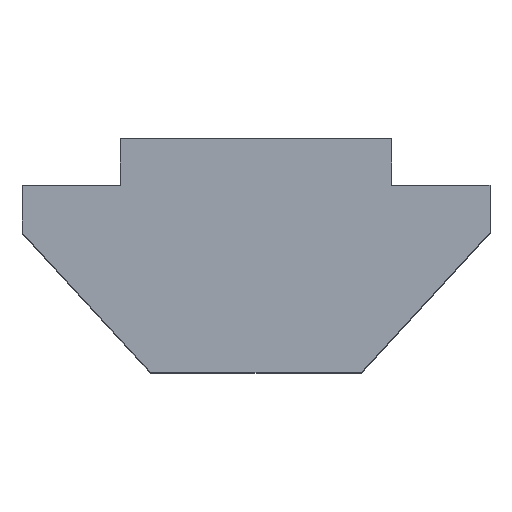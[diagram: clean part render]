
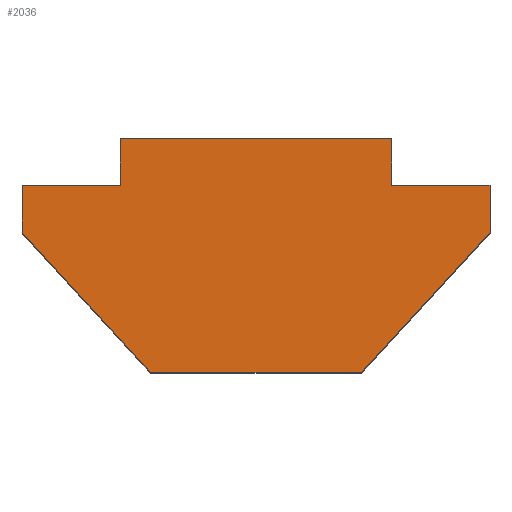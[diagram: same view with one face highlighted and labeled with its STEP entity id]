
A CAD part, top view. The second image highlights one B-rep face of the part: STEP entity #2036.
In plain terms, the highlighted planar face has unit normal (0, 0, 1).
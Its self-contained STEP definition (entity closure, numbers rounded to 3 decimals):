
#39 = EDGE_CURVE ( 'NONE', #1123, #1499, #693, .T. ) ;
#79 = CARTESIAN_POINT ( 'NONE',  ( -5., 3., 5. ) ) ;
#95 = CARTESIAN_POINT ( 'NONE',  ( 2.9, 5., 5. ) ) ;
#100 = CARTESIAN_POINT ( 'NONE',  ( 5., 3., 5. ) ) ;
#122 = CARTESIAN_POINT ( 'NONE',  ( -5., 4., 5. ) ) ;
#146 = VECTOR ( 'NONE', #2346, 1000. ) ;
#169 = CARTESIAN_POINT ( 'NONE',  ( -2.9, 5., 5. ) ) ;
#179 = LINE ( 'NONE', #613, #1245 ) ;
#181 = ORIENTED_EDGE ( 'NONE', *, *, #1535, .T. ) ;
#200 = VECTOR ( 'NONE', #2204, 1000. ) ;
#229 = ORIENTED_EDGE ( 'NONE', *, *, #1351, .T. ) ;
#288 = ORIENTED_EDGE ( 'NONE', *, *, #1677, .T. ) ;
#332 = CARTESIAN_POINT ( 'NONE',  ( 2.9, 5., 5. ) ) ;
#345 = CARTESIAN_POINT ( 'NONE',  ( 2.25, 0., 5. ) ) ;
#346 = DIRECTION ( 'NONE',  ( 0., -1., 0. ) ) ;
#355 = DIRECTION ( 'NONE',  ( 0., 1., 0. ) ) ;
#378 = VECTOR ( 'NONE', #993, 1000. ) ;
#383 = CARTESIAN_POINT ( 'NONE',  ( -2.9, 4., 5. ) ) ;
#405 = ORIENTED_EDGE ( 'NONE', *, *, #1840, .T. ) ;
#423 = VERTEX_POINT ( 'NONE', #100 ) ;
#492 = VERTEX_POINT ( 'NONE', #383 ) ;
#534 = DIRECTION ( 'NONE',  ( -1., 0., 0. ) ) ;
#601 = LINE ( 'NONE', #1630, #1080 ) ;
#610 = EDGE_LOOP ( 'NONE', ( #288, #405, #1321, #229, #181, #2659, #767, #1865, #1920, #1117 ) ) ;
#613 = CARTESIAN_POINT ( 'NONE',  ( -2.9, 4., 5. ) ) ;
#681 = CARTESIAN_POINT ( 'NONE',  ( 5., 3., 5. ) ) ;
#690 = VERTEX_POINT ( 'NONE', #1740 ) ;
#693 = LINE ( 'NONE', #169, #146 ) ;
#750 = AXIS2_PLACEMENT_3D ( 'NONE', #2712, #1197, #977 ) ;
#767 = ORIENTED_EDGE ( 'NONE', *, *, #2676, .T. ) ;
#863 = CARTESIAN_POINT ( 'NONE',  ( 5., 4., 5. ) ) ;
#928 = LINE ( 'NONE', #332, #2023 ) ;
#961 = DIRECTION ( 'NONE',  ( 0.676, -0.737, 0. ) ) ;
#977 = DIRECTION ( 'NONE',  ( -1., 0., 0. ) ) ;
#993 = DIRECTION ( 'NONE',  ( 1., 0., 0. ) ) ;
#1050 = VERTEX_POINT ( 'NONE', #2685 ) ;
#1078 = LINE ( 'NONE', #2269, #1600 ) ;
#1080 = VECTOR ( 'NONE', #346, 1000. ) ;
#1089 = VERTEX_POINT ( 'NONE', #2479 ) ;
#1117 = ORIENTED_EDGE ( 'NONE', *, *, #39, .T. ) ;
#1123 = VERTEX_POINT ( 'NONE', #95 ) ;
#1163 = LINE ( 'NONE', #79, #2181 ) ;
#1197 = DIRECTION ( 'NONE',  ( 0., 0., -1. ) ) ;
#1245 = VECTOR ( 'NONE', #2772, 1000. ) ;
#1321 = ORIENTED_EDGE ( 'NONE', *, *, #1335, .T. ) ;
#1335 = EDGE_CURVE ( 'NONE', #2541, #1089, #601, .T. ) ;
#1351 = EDGE_CURVE ( 'NONE', #1089, #690, #1163, .T. ) ;
#1391 = DIRECTION ( 'NONE',  ( 0., 1., 0. ) ) ;
#1416 = LINE ( 'NONE', #681, #200 ) ;
#1455 = LINE ( 'NONE', #2085, #378 ) ;
#1478 = FACE_OUTER_BOUND ( 'NONE', #610, .T. ) ;
#1480 = VERTEX_POINT ( 'NONE', #345 ) ;
#1493 = EDGE_CURVE ( 'NONE', #1050, #1123, #928, .T. ) ;
#1499 = VERTEX_POINT ( 'NONE', #1629 ) ;
#1535 = EDGE_CURVE ( 'NONE', #690, #1480, #1455, .T. ) ;
#1600 = VECTOR ( 'NONE', #534, 1000. ) ;
#1614 = VECTOR ( 'NONE', #2451, 1000. ) ;
#1629 = CARTESIAN_POINT ( 'NONE',  ( -2.9, 5., 5. ) ) ;
#1630 = CARTESIAN_POINT ( 'NONE',  ( -5., 4., 5. ) ) ;
#1677 = EDGE_CURVE ( 'NONE', #1499, #492, #179, .T. ) ;
#1740 = CARTESIAN_POINT ( 'NONE',  ( -2.25, 0., 5. ) ) ;
#1840 = EDGE_CURVE ( 'NONE', #492, #2541, #2264, .T. ) ;
#1865 = ORIENTED_EDGE ( 'NONE', *, *, #2718, .T. ) ;
#1920 = ORIENTED_EDGE ( 'NONE', *, *, #1493, .T. ) ;
#2023 = VECTOR ( 'NONE', #355, 1000. ) ;
#2036 = ADVANCED_FACE ( 'NONE', ( #1478 ), #2068, .F. ) ;
#2068 = PLANE ( 'NONE',  #750 ) ;
#2085 = CARTESIAN_POINT ( 'NONE',  ( -2.25, 0., 5. ) ) ;
#2171 = VECTOR ( 'NONE', #1391, 1000. ) ;
#2174 = EDGE_CURVE ( 'NONE', #1480, #423, #1416, .T. ) ;
#2181 = VECTOR ( 'NONE', #961, 1000. ) ;
#2204 = DIRECTION ( 'NONE',  ( 0.676, 0.737, 0. ) ) ;
#2264 = LINE ( 'NONE', #2416, #1614 ) ;
#2269 = CARTESIAN_POINT ( 'NONE',  ( 2.9, 4., 5. ) ) ;
#2346 = DIRECTION ( 'NONE',  ( -1., 0., 0. ) ) ;
#2416 = CARTESIAN_POINT ( 'NONE',  ( -5., 4., 5. ) ) ;
#2444 = VERTEX_POINT ( 'NONE', #863 ) ;
#2451 = DIRECTION ( 'NONE',  ( -1., 0., 0. ) ) ;
#2479 = CARTESIAN_POINT ( 'NONE',  ( -5., 3., 5. ) ) ;
#2541 = VERTEX_POINT ( 'NONE', #122 ) ;
#2659 = ORIENTED_EDGE ( 'NONE', *, *, #2174, .T. ) ;
#2676 = EDGE_CURVE ( 'NONE', #423, #2444, #2771, .T. ) ;
#2685 = CARTESIAN_POINT ( 'NONE',  ( 2.9, 4., 5. ) ) ;
#2694 = CARTESIAN_POINT ( 'NONE',  ( 5., 4., 5. ) ) ;
#2712 = CARTESIAN_POINT ( 'NONE',  ( 0., 0., 5. ) ) ;
#2718 = EDGE_CURVE ( 'NONE', #2444, #1050, #1078, .T. ) ;
#2771 = LINE ( 'NONE', #2694, #2171 ) ;
#2772 = DIRECTION ( 'NONE',  ( 0., -1., 0. ) ) ;
